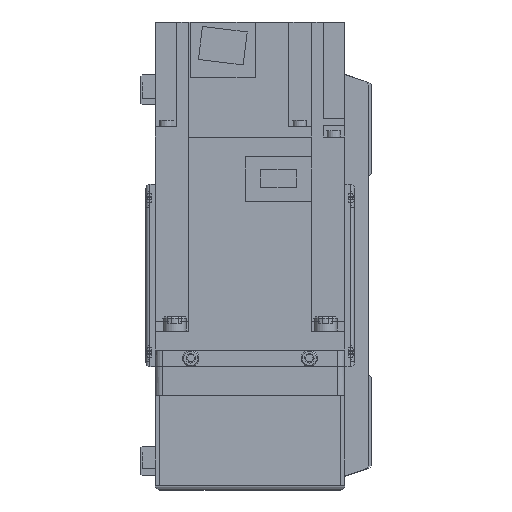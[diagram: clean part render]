
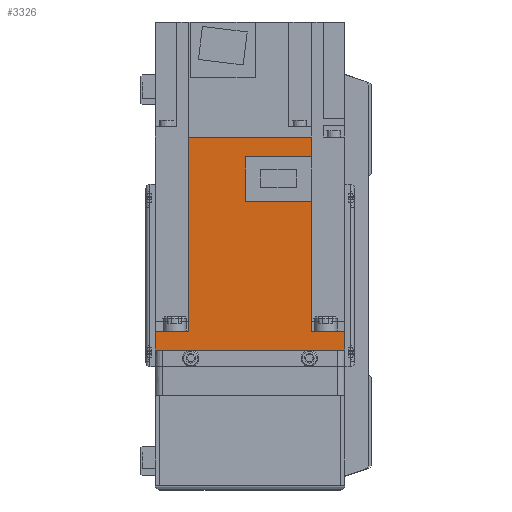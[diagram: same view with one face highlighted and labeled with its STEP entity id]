
A CAD part, left-side view. The second image highlights one B-rep face of the part: STEP entity #3326.
In plain terms, the highlighted planar face has unit normal (-1, 0, 0) as drawn and (1, 0, 0) by its records, which use the part's own axes.
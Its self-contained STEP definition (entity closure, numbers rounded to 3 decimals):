
#3326 = ADVANCED_FACE( '', ( #6962 ), #6963, .F. );
#6962 = FACE_OUTER_BOUND( '', #10642, .T. );
#6963 = PLANE( '', #10643 );
#10642 = EDGE_LOOP( '', ( #20012, #20013, #20014, #20015, #20016, #20017, #20018, #20019, #20020, #20021, #20022, #20023 ) );
#10643 = AXIS2_PLACEMENT_3D( '', #20024, #20025, #20026 );
#20012 = ORIENTED_EDGE( '', *, *, #22484, .F. );
#20013 = ORIENTED_EDGE( '', *, *, #24238, .F. );
#20014 = ORIENTED_EDGE( '', *, *, #20963, .F. );
#20015 = ORIENTED_EDGE( '', *, *, #20632, .T. );
#20016 = ORIENTED_EDGE( '', *, *, #24300, .F. );
#20017 = ORIENTED_EDGE( '', *, *, #23965, .T. );
#20018 = ORIENTED_EDGE( '', *, *, #23957, .T. );
#20019 = ORIENTED_EDGE( '', *, *, #24029, .F. );
#20020 = ORIENTED_EDGE( '', *, *, #23678, .F. );
#20021 = ORIENTED_EDGE( '', *, *, #24239, .F. );
#20022 = ORIENTED_EDGE( '', *, *, #22771, .F. );
#20023 = ORIENTED_EDGE( '', *, *, #23611, .F. );
#20024 = CARTESIAN_POINT( '', ( 40., 89.8, 40. ) );
#20025 = DIRECTION( '', ( -1., 0., 0. ) );
#20026 = DIRECTION( '', ( 0., 0., 1. ) );
#20632 = EDGE_CURVE( '', #24415, #24413, #24416, .T. );
#20963 = EDGE_CURVE( '', #24415, #25006, #25009, .T. );
#22484 = EDGE_CURVE( '', #27521, #27523, #27524, .T. );
#22771 = EDGE_CURVE( '', #27954, #27955, #27956, .T. );
#23611 = EDGE_CURVE( '', #27523, #27954, #29110, .T. );
#23678 = EDGE_CURVE( '', #29189, #29190, #29191, .T. );
#23957 = EDGE_CURVE( '', #29528, #29526, #29529, .T. );
#23965 = EDGE_CURVE( '', #29538, #29528, #29539, .T. );
#24029 = EDGE_CURVE( '', #29190, #29526, #29611, .T. );
#24238 = EDGE_CURVE( '', #25006, #27521, #29844, .T. );
#24239 = EDGE_CURVE( '', #27955, #29189, #29845, .T. );
#24300 = EDGE_CURVE( '', #29538, #24413, #29915, .T. );
#24413 = VERTEX_POINT( '', #30041 );
#24415 = VERTEX_POINT( '', #30044 );
#24416 = LINE( '', #30045, #30046 );
#25006 = VERTEX_POINT( '', #30844 );
#25009 = LINE( '', #30849, #30850 );
#27521 = VERTEX_POINT( '', #35272 );
#27523 = VERTEX_POINT( '', #35275 );
#27524 = LINE( '', #35276, #35277 );
#27954 = VERTEX_POINT( '', #35880 );
#27955 = VERTEX_POINT( '', #35881 );
#27956 = LINE( '', #35882, #35883 );
#29110 = LINE( '', #37543, #37544 );
#29189 = VERTEX_POINT( '', #37662 );
#29190 = VERTEX_POINT( '', #37663 );
#29191 = LINE( '', #37664, #37665 );
#29526 = VERTEX_POINT( '', #38131 );
#29528 = VERTEX_POINT( '', #38134 );
#29529 = LINE( '', #38135, #38136 );
#29538 = VERTEX_POINT( '', #38147 );
#29539 = LINE( '', #38148, #38149 );
#29611 = LINE( '', #38252, #38253 );
#29844 = LINE( '', #38554, #38555 );
#29845 = LINE( '', #38556, #38557 );
#29915 = LINE( '', #38636, #38637 );
#30041 = CARTESIAN_POINT( '', ( 40., 8., 25.95 ) );
#30044 = CARTESIAN_POINT( '', ( 40., 89.8, 25.95 ) );
#30045 = CARTESIAN_POINT( '', ( 40., 158., 25.95 ) );
#30046 = VECTOR( '', #38744, 1000. );
#30844 = CARTESIAN_POINT( '', ( 40., 89.8, -25.95 ) );
#30849 = CARTESIAN_POINT( '', ( 40., 89.8, 40. ) );
#30850 = VECTOR( '', #39179, 1000. );
#35272 = CARTESIAN_POINT( '', ( 40., 81.4, -25.95 ) );
#35275 = CARTESIAN_POINT( '', ( 40., 81.4, 1.8 ) );
#35276 = CARTESIAN_POINT( '', ( 40., 81.4, -26. ) );
#35277 = VECTOR( '', #41068, 1000. );
#35880 = CARTESIAN_POINT( '', ( 40., 62.8, 1.8 ) );
#35881 = CARTESIAN_POINT( '', ( 40., 62.8, -25.95 ) );
#35882 = CARTESIAN_POINT( '', ( 40., 62.8, 1.8 ) );
#35883 = VECTOR( '', #41435, 1000. );
#37543 = CARTESIAN_POINT( '', ( 40., 81.4, 1.8 ) );
#37544 = VECTOR( '', #42380, 1000. );
#37662 = CARTESIAN_POINT( '', ( 40., 8., -25.95 ) );
#37663 = CARTESIAN_POINT( '', ( 40., 8., -40. ) );
#37664 = CARTESIAN_POINT( '', ( 40., 8., 40. ) );
#37665 = VECTOR( '', #42439, 1000. );
#38131 = CARTESIAN_POINT( '', ( 40., 0., -40. ) );
#38134 = CARTESIAN_POINT( '', ( 40., 0., 40. ) );
#38135 = CARTESIAN_POINT( '', ( 40., 0., 40. ) );
#38136 = VECTOR( '', #42732, 1000. );
#38147 = CARTESIAN_POINT( '', ( 40., 8., 40. ) );
#38148 = CARTESIAN_POINT( '', ( 40., 89.8, 40. ) );
#38149 = VECTOR( '', #42744, 1000. );
#38252 = CARTESIAN_POINT( '', ( 40., 89.8, -40. ) );
#38253 = VECTOR( '', #42805, 1000. );
#38554 = CARTESIAN_POINT( '', ( 40., 158., -25.95 ) );
#38555 = VECTOR( '', #42975, 1000. );
#38556 = CARTESIAN_POINT( '', ( 40., 158., -25.95 ) );
#38557 = VECTOR( '', #42976, 1000. );
#38636 = CARTESIAN_POINT( '', ( 40., 8., 40. ) );
#38637 = VECTOR( '', #43013, 1000. );
#38744 = DIRECTION( '', ( 0., -1., 0. ) );
#39179 = DIRECTION( '', ( 0., 0., -1. ) );
#41068 = DIRECTION( '', ( 0., 0., 1. ) );
#41435 = DIRECTION( '', ( 0., 0., -1. ) );
#42380 = DIRECTION( '', ( 0., -1., 0. ) );
#42439 = DIRECTION( '', ( 0., 0., -1. ) );
#42732 = DIRECTION( '', ( 0., 0., -1. ) );
#42744 = DIRECTION( '', ( 0., -1., 0. ) );
#42805 = DIRECTION( '', ( 0., -1., 0. ) );
#42975 = DIRECTION( '', ( 0., -1., 0. ) );
#42976 = DIRECTION( '', ( 0., -1., 0. ) );
#43013 = DIRECTION( '', ( 0., 0., -1. ) );
